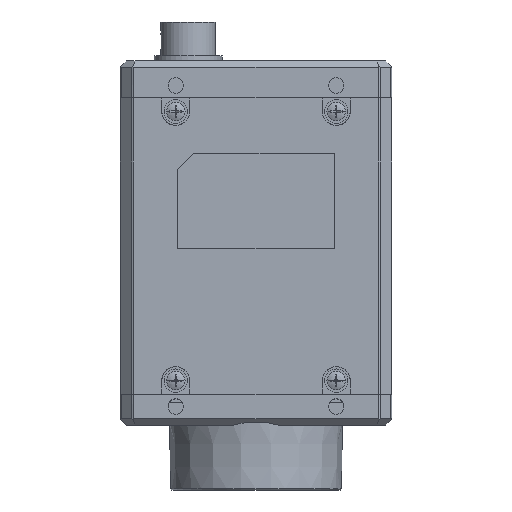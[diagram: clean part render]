
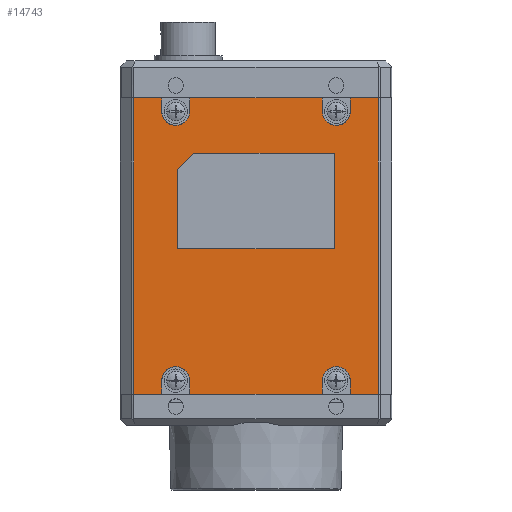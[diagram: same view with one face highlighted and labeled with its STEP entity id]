
A CAD part, front view. The second image highlights one B-rep face of the part: STEP entity #14743.
In plain terms, the highlighted planar face has unit normal (0, -1, 0).
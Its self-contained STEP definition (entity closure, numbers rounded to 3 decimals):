
#442=DIRECTION('',(-1.,0.,0.));
#443=VECTOR('',#442,4.529);
#444=CARTESIAN_POINT('',(-15.264,-14.4,53.));
#445=LINE('',#444,#443);
#492=DIRECTION('',(-1.,0.,0.));
#493=VECTOR('',#492,4.529);
#494=CARTESIAN_POINT('',(19.793,-14.4,53.));
#495=LINE('',#494,#493);
#508=DIRECTION('',(-1.,0.,0.));
#509=VECTOR('',#508,21.472);
#510=CARTESIAN_POINT('',(10.736,-14.4,53.));
#511=LINE('',#510,#509);
#524=DIRECTION('',(0.,0.,-1.));
#525=VECTOR('',#524,2.2);
#526=CARTESIAN_POINT('',(-15.264,-14.4,53.));
#527=LINE('',#526,#525);
#528=CARTESIAN_POINT('',(-13.,-14.4,50.8));
#529=DIRECTION('',(0.,-1.,0.));
#530=DIRECTION('',(-1.,0.,0.));
#531=AXIS2_PLACEMENT_3D('',#528,#529,#530);
#533=CARTESIAN_POINT('',(-13.,-14.4,50.8));
#534=DIRECTION('',(0.,-1.,0.));
#535=DIRECTION('',(0.,0.,-1.));
#536=AXIS2_PLACEMENT_3D('',#533,#534,#535);
#538=DIRECTION('',(0.,0.,1.));
#539=VECTOR('',#538,2.2);
#540=CARTESIAN_POINT('',(-10.736,-14.4,50.8));
#541=LINE('',#540,#539);
#542=DIRECTION('',(0.,0.,-1.));
#543=VECTOR('',#542,2.2);
#544=CARTESIAN_POINT('',(10.736,-14.4,53.));
#545=LINE('',#544,#543);
#546=CARTESIAN_POINT('',(13.,-14.4,50.8));
#547=DIRECTION('',(0.,-1.,0.));
#548=DIRECTION('',(-1.,0.,0.));
#549=AXIS2_PLACEMENT_3D('',#546,#547,#548);
#551=CARTESIAN_POINT('',(13.,-14.4,50.8));
#552=DIRECTION('',(0.,-1.,0.));
#553=DIRECTION('',(0.,0.,-1.));
#554=AXIS2_PLACEMENT_3D('',#551,#552,#553);
#556=DIRECTION('',(0.,0.,1.));
#557=VECTOR('',#556,2.2);
#558=CARTESIAN_POINT('',(15.264,-14.4,50.8));
#559=LINE('',#558,#557);
#560=DIRECTION('',(-1.,0.,0.));
#561=VECTOR('',#560,4.529);
#562=CARTESIAN_POINT('',(19.793,-14.4,5.));
#563=LINE('',#562,#561);
#564=DIRECTION('',(0.,0.,1.));
#565=VECTOR('',#564,2.2);
#566=CARTESIAN_POINT('',(15.264,-14.4,5.));
#567=LINE('',#566,#565);
#568=CARTESIAN_POINT('',(13.,-14.4,7.2));
#569=DIRECTION('',(0.,-1.,0.));
#570=DIRECTION('',(1.,0.,0.));
#571=AXIS2_PLACEMENT_3D('',#568,#569,#570);
#573=CARTESIAN_POINT('',(13.,-14.4,7.2));
#574=DIRECTION('',(0.,-1.,0.));
#575=DIRECTION('',(0.,0.,1.));
#576=AXIS2_PLACEMENT_3D('',#573,#574,#575);
#578=DIRECTION('',(0.,0.,-1.));
#579=VECTOR('',#578,2.2);
#580=CARTESIAN_POINT('',(10.736,-14.4,7.2));
#581=LINE('',#580,#579);
#582=DIRECTION('',(-1.,0.,0.));
#583=VECTOR('',#582,21.472);
#584=CARTESIAN_POINT('',(10.736,-14.4,5.));
#585=LINE('',#584,#583);
#586=DIRECTION('',(0.,0.,1.));
#587=VECTOR('',#586,2.2);
#588=CARTESIAN_POINT('',(-10.736,-14.4,5.));
#589=LINE('',#588,#587);
#590=CARTESIAN_POINT('',(-13.,-14.4,7.2));
#591=DIRECTION('',(0.,-1.,0.));
#592=DIRECTION('',(1.,0.,0.));
#593=AXIS2_PLACEMENT_3D('',#590,#591,#592);
#595=CARTESIAN_POINT('',(-13.,-14.4,7.2));
#596=DIRECTION('',(0.,-1.,0.));
#597=DIRECTION('',(0.,0.,1.));
#598=AXIS2_PLACEMENT_3D('',#595,#596,#597);
#600=DIRECTION('',(0.,0.,-1.));
#601=VECTOR('',#600,2.2);
#602=CARTESIAN_POINT('',(-15.264,-14.4,7.2));
#603=LINE('',#602,#601);
#604=DIRECTION('',(-1.,0.,0.));
#605=VECTOR('',#604,4.529);
#606=CARTESIAN_POINT('',(-15.264,-14.4,5.));
#607=LINE('',#606,#605);
#608=DIRECTION('',(-1.,0.,0.));
#609=VECTOR('',#608,22.8);
#610=CARTESIAN_POINT('',(12.7,-14.4,44.));
#611=LINE('',#610,#609);
#612=DIRECTION('',(-0.707,0.,-0.707));
#613=VECTOR('',#612,3.677);
#614=CARTESIAN_POINT('',(-10.1,-14.4,44.));
#615=LINE('',#614,#613);
#616=DIRECTION('',(0.,0.,-1.));
#617=VECTOR('',#616,12.8);
#618=CARTESIAN_POINT('',(-12.7,-14.4,41.4));
#619=LINE('',#618,#617);
#620=DIRECTION('',(1.,0.,0.));
#621=VECTOR('',#620,25.4);
#622=CARTESIAN_POINT('',(-12.7,-14.4,28.6));
#623=LINE('',#622,#621);
#624=DIRECTION('',(0.,0.,1.));
#625=VECTOR('',#624,15.4);
#626=CARTESIAN_POINT('',(12.7,-14.4,28.6));
#627=LINE('',#626,#625);
#632=DIRECTION('',(0.,0.,-1.));
#633=VECTOR('',#632,48.);
#634=CARTESIAN_POINT('',(-19.793,-14.4,53.));
#635=LINE('',#634,#633);
#1167=DIRECTION('',(0.,0.,1.));
#1168=VECTOR('',#1167,48.);
#1169=CARTESIAN_POINT('',(19.793,-14.4,5.));
#1170=LINE('',#1169,#1168);
#11365=CARTESIAN_POINT('',(15.264,-14.4,5.));
#11366=VERTEX_POINT('',#11365);
#11367=CARTESIAN_POINT('',(19.793,-14.4,5.));
#11368=VERTEX_POINT('',#11367);
#11389=CARTESIAN_POINT('',(-19.793,-14.4,5.));
#11390=VERTEX_POINT('',#11389);
#11391=CARTESIAN_POINT('',(-15.264,-14.4,5.));
#11392=VERTEX_POINT('',#11391);
#11397=CARTESIAN_POINT('',(-10.736,-14.4,5.));
#11398=VERTEX_POINT('',#11397);
#11399=CARTESIAN_POINT('',(10.736,-14.4,5.));
#11400=VERTEX_POINT('',#11399);
#11599=CARTESIAN_POINT('',(10.736,-14.4,7.2));
#11600=VERTEX_POINT('',#11599);
#11601=CARTESIAN_POINT('',(-19.793,-14.4,53.));
#11602=VERTEX_POINT('',#11601);
#11603=CARTESIAN_POINT('',(-15.264,-14.4,53.));
#11604=VERTEX_POINT('',#11603);
#11605=CARTESIAN_POINT('',(-15.264,-14.4,50.8));
#11606=VERTEX_POINT('',#11605);
#11607=CARTESIAN_POINT('',(-13.,-14.4,48.536));
#11608=VERTEX_POINT('',#11607);
#11609=CARTESIAN_POINT('',(-10.736,-14.4,50.8));
#11610=VERTEX_POINT('',#11609);
#11611=CARTESIAN_POINT('',(-10.736,-14.4,53.));
#11612=VERTEX_POINT('',#11611);
#11613=CARTESIAN_POINT('',(10.736,-14.4,53.));
#11614=VERTEX_POINT('',#11613);
#11615=CARTESIAN_POINT('',(10.736,-14.4,50.8));
#11616=VERTEX_POINT('',#11615);
#11617=CARTESIAN_POINT('',(13.,-14.4,48.536));
#11618=VERTEX_POINT('',#11617);
#11619=CARTESIAN_POINT('',(15.264,-14.4,50.8));
#11620=VERTEX_POINT('',#11619);
#11621=CARTESIAN_POINT('',(15.264,-14.4,53.));
#11622=VERTEX_POINT('',#11621);
#11623=CARTESIAN_POINT('',(19.793,-14.4,53.));
#11624=VERTEX_POINT('',#11623);
#11625=CARTESIAN_POINT('',(15.264,-14.4,7.2));
#11626=VERTEX_POINT('',#11625);
#11627=CARTESIAN_POINT('',(13.,-14.4,9.464));
#11628=VERTEX_POINT('',#11627);
#11629=CARTESIAN_POINT('',(-10.736,-14.4,7.2));
#11630=VERTEX_POINT('',#11629);
#11631=CARTESIAN_POINT('',(-13.,-14.4,9.464));
#11632=VERTEX_POINT('',#11631);
#11633=CARTESIAN_POINT('',(-15.264,-14.4,7.2));
#11634=VERTEX_POINT('',#11633);
#11635=CARTESIAN_POINT('',(12.7,-14.4,44.));
#11636=CARTESIAN_POINT('',(-10.1,-14.4,44.));
#11637=VERTEX_POINT('',#11635);
#11638=VERTEX_POINT('',#11636);
#11639=CARTESIAN_POINT('',(-12.7,-14.4,41.4));
#11640=VERTEX_POINT('',#11639);
#11641=CARTESIAN_POINT('',(-12.7,-14.4,28.6));
#11642=VERTEX_POINT('',#11641);
#11643=CARTESIAN_POINT('',(12.7,-14.4,28.6));
#11644=VERTEX_POINT('',#11643);
#14680=CARTESIAN_POINT('',(0.,-14.4,29.));
#14681=DIRECTION('',(0.,1.,0.));
#14682=DIRECTION('',(1.,0.,0.));
#14683=AXIS2_PLACEMENT_3D('',#14680,#14681,#14682);
#14684=PLANE('',#14683);
#14686=ORIENTED_EDGE('',*,*,#14685,.F.);
#14687=ORIENTED_EDGE('',*,*,#14639,.F.);
#14689=ORIENTED_EDGE('',*,*,#14688,.T.);
#14691=ORIENTED_EDGE('',*,*,#14690,.T.);
#14693=ORIENTED_EDGE('',*,*,#14692,.T.);
#14694=ORIENTED_EDGE('',*,*,#14626,.T.);
#14695=ORIENTED_EDGE('',*,*,#14671,.F.);
#14697=ORIENTED_EDGE('',*,*,#14696,.T.);
#14699=ORIENTED_EDGE('',*,*,#14698,.T.);
#14701=ORIENTED_EDGE('',*,*,#14700,.T.);
#14703=ORIENTED_EDGE('',*,*,#14702,.T.);
#14704=ORIENTED_EDGE('',*,*,#14663,.F.);
#14706=ORIENTED_EDGE('',*,*,#14705,.F.);
#14708=ORIENTED_EDGE('',*,*,#14707,.T.);
#14710=ORIENTED_EDGE('',*,*,#14709,.T.);
#14712=ORIENTED_EDGE('',*,*,#14711,.T.);
#14714=ORIENTED_EDGE('',*,*,#14713,.T.);
#14716=ORIENTED_EDGE('',*,*,#14715,.T.);
#14718=ORIENTED_EDGE('',*,*,#14717,.T.);
#14720=ORIENTED_EDGE('',*,*,#14719,.T.);
#14722=ORIENTED_EDGE('',*,*,#14721,.T.);
#14724=ORIENTED_EDGE('',*,*,#14723,.T.);
#14726=ORIENTED_EDGE('',*,*,#14725,.T.);
#14728=ORIENTED_EDGE('',*,*,#14727,.T.);
#14729=EDGE_LOOP('',(#14686,#14687,#14689,#14691,#14693,#14694,#14695,#14697,
#14699,#14701,#14703,#14704,#14706,#14708,#14710,#14712,#14714,#14716,#14718,
#14720,#14722,#14724,#14726,#14728));
#14730=FACE_OUTER_BOUND('',#14729,.F.);
#14732=ORIENTED_EDGE('',*,*,#14731,.T.);
#14734=ORIENTED_EDGE('',*,*,#14733,.T.);
#14736=ORIENTED_EDGE('',*,*,#14735,.T.);
#14738=ORIENTED_EDGE('',*,*,#14737,.T.);
#14740=ORIENTED_EDGE('',*,*,#14739,.T.);
#14741=EDGE_LOOP('',(#14732,#14734,#14736,#14738,#14740));
#14742=FACE_BOUND('',#14741,.F.);
#14743=ADVANCED_FACE('',(#14730,#14742),#14684,.F.);
#532=CIRCLE('',#531,2.264);
#537=CIRCLE('',#536,2.264);
#550=CIRCLE('',#549,2.264);
#555=CIRCLE('',#554,2.264);
#572=CIRCLE('',#571,2.264);
#577=CIRCLE('',#576,2.264);
#594=CIRCLE('',#593,2.264);
#599=CIRCLE('',#598,2.264);
#14626=EDGE_CURVE('',#11610,#11612,#541,.T.);
#14639=EDGE_CURVE('',#11604,#11602,#445,.T.);
#14663=EDGE_CURVE('',#11624,#11622,#495,.T.);
#14671=EDGE_CURVE('',#11614,#11612,#511,.T.);
#14685=EDGE_CURVE('',#11602,#11390,#635,.T.);
#14688=EDGE_CURVE('',#11604,#11606,#527,.T.);
#14690=EDGE_CURVE('',#11606,#11608,#532,.T.);
#14692=EDGE_CURVE('',#11608,#11610,#537,.T.);
#14696=EDGE_CURVE('',#11614,#11616,#545,.T.);
#14698=EDGE_CURVE('',#11616,#11618,#550,.T.);
#14700=EDGE_CURVE('',#11618,#11620,#555,.T.);
#14702=EDGE_CURVE('',#11620,#11622,#559,.T.);
#14705=EDGE_CURVE('',#11368,#11624,#1170,.T.);
#14707=EDGE_CURVE('',#11368,#11366,#563,.T.);
#14709=EDGE_CURVE('',#11366,#11626,#567,.T.);
#14711=EDGE_CURVE('',#11626,#11628,#572,.T.);
#14713=EDGE_CURVE('',#11628,#11600,#577,.T.);
#14715=EDGE_CURVE('',#11600,#11400,#581,.T.);
#14717=EDGE_CURVE('',#11400,#11398,#585,.T.);
#14719=EDGE_CURVE('',#11398,#11630,#589,.T.);
#14721=EDGE_CURVE('',#11630,#11632,#594,.T.);
#14723=EDGE_CURVE('',#11632,#11634,#599,.T.);
#14725=EDGE_CURVE('',#11634,#11392,#603,.T.);
#14727=EDGE_CURVE('',#11392,#11390,#607,.T.);
#14731=EDGE_CURVE('',#11637,#11638,#611,.T.);
#14733=EDGE_CURVE('',#11638,#11640,#615,.T.);
#14735=EDGE_CURVE('',#11640,#11642,#619,.T.);
#14737=EDGE_CURVE('',#11642,#11644,#623,.T.);
#14739=EDGE_CURVE('',#11644,#11637,#627,.T.);
